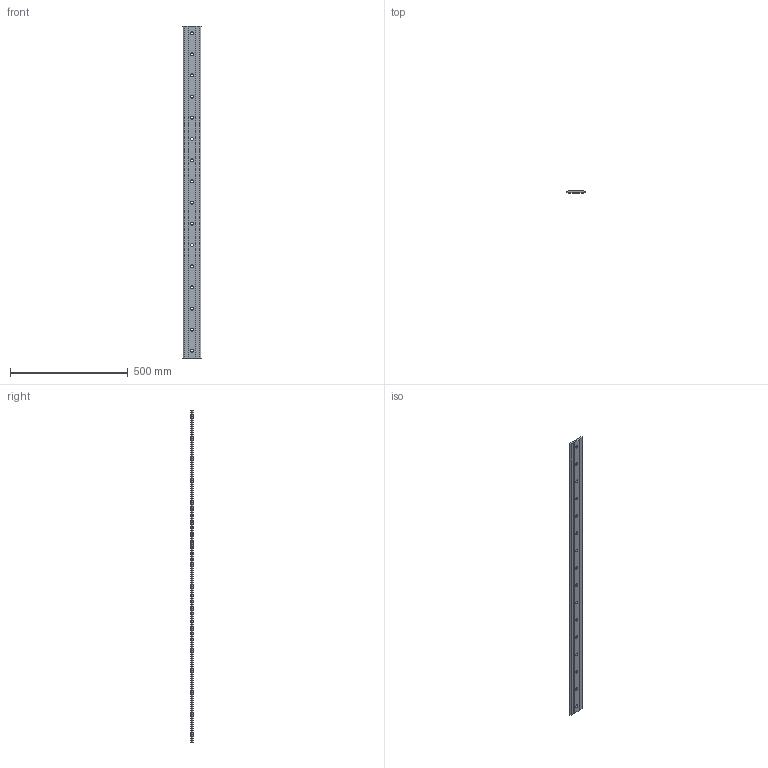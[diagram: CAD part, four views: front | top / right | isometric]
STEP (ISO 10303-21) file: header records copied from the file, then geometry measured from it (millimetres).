
FILE_DESCRIPTION(('STEP AP203'),'1');
FILE_NAME('//192.168.1.1/share/s-4 技術開発/s-4-4_CAD/s-4-4-6_見直し、確認済み/014 修正済み(済)/GF_TOP/GF-76C-1410.step','2022-03-14T00:13:18',(' '),(' '),'Spatial InterOp 3D',' ',' ');
FILE_SCHEMA(('CONFIG_CONTROL_DESIGN'));
Length unit declared in the file: millimetre
Products named in the file (1): 1
Bounding box: 76.79 x 9.43 x 1410 mm (x, y, z)
Volume: 922150.7 mm3; surface area: 232674.7 mm2
Topology: 1 solids, 1 shells, 66 faces, 176 edges, 112 vertices
Faces by surface type: cone 32, cylinder 20, plane 14
Full cylindrical faces by diameter (mm): 11.5 x16
Entity records: 1788 total; most frequent: DIRECTION 318, CARTESIAN_POINT 275, ORIENTED_EDGE 224, EDGE_LOOP 146, AXIS2_PLACEMENT_3D 139, EDGE_CURVE 112, VERTEX_POINT 96, FACE_OUTER_BOUND 82
